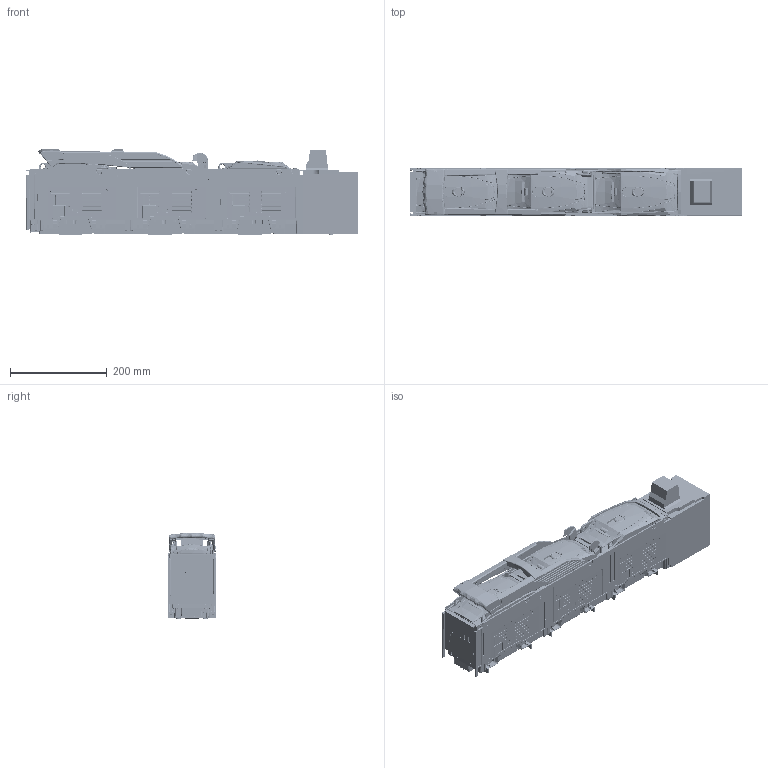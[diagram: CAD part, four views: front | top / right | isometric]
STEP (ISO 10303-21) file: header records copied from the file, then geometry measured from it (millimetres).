
FILE_DESCRIPTION(/* description */ (''),/* implementation_level */ '2;1');
FILE_NAME(/* name */ 'ARS 400-6-M.stp',/* time_stamp */ '2018-07-16T09:27:35+02:00',/* author */ (''),/* organization */ (''),/* preprocessor_version */ 'ST-DEVELOPER v16',/* originating_system */ 'SIEMENS PLM Software NX 10.0',/* authorisation */ '');
FILE_SCHEMA (('AUTOMOTIVE_DESIGN { 1 0 10303 214 3 1 1 1 }'));
Products named in the file (1): 710_0AD4EC05y3fw
Bounding box: 684.75 x 99.57 x 177.44 mm (x, y, z)
Volume: 7591186.3 mm3; surface area: 701597.9 mm2
Topology: 1 solids, 22 shells, 14067 faces, 37301 edges, 23143 vertices
Faces by surface type: plane 4876, bspline 4345, cylinder 3552, torus 387, sphere 358, extrusion 296, cone 251, revolution 2
Full cylindrical faces by diameter (mm): 1.7 x12, 2.263 x2, 2.9 x1, 3 x4, 3.1 x1, 3.5 x4, 3.7 x4, 5 x1, 5.6 x1, 6 x2, 6.5 x2, 7.228 x1, 8 x1, 8.228 x1, 9.5 x4, 9.732 x6, 14 x1, 14.63 x3
Entity records: 629733 total; most frequent: CARTESIAN_POINT 280851, ORIENTED_EDGE 73680, DIRECTION 50074, EDGE_CURVE 36840, VERTEX_POINT 23108, VECTOR 16830, AXIS2_PLACEMENT_3D 16621, LINE 16534
